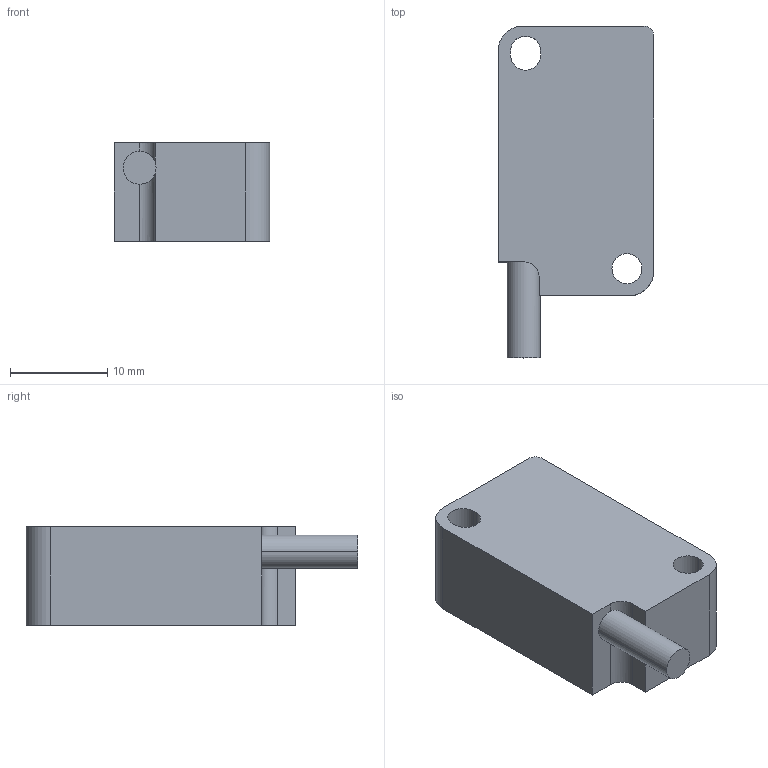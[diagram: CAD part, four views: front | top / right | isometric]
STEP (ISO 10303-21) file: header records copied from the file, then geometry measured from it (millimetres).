
FILE_DESCRIPTION( ( '' ), '1' );
FILE_NAME( '//partserver001.servicenet/client_exchange/iodir/jobs/output/wkb10605580_no0/STEP/is5031_2_03.stp', '2008-05-15T14:10:29', ( '' ), ( '' ), ' ', ' ', ' ' );
FILE_SCHEMA( ( 'CONFIG_CONTROL_DESIGN' ) );
Length unit declared in the file: millimetre
Products named in the file (1): 1
Bounding box: 16 x 34.2 x 10.2 mm (x, y, z)
Volume: 4261.3 mm3; surface area: 2038.6 mm2
Topology: 1 solids, 1 shells, 72 faces, 177 edges, 118 vertices
Faces by surface type: plane 39, cylinder 33
Entity records: 2229 total; most frequent: CARTESIAN_POINT 402, DIRECTION 387, ORIENTED_EDGE 354, EDGE_CURVE 177, AXIS2_PLACEMENT_3D 139, VERTEX_POINT 118, LINE 109, VECTOR 109
